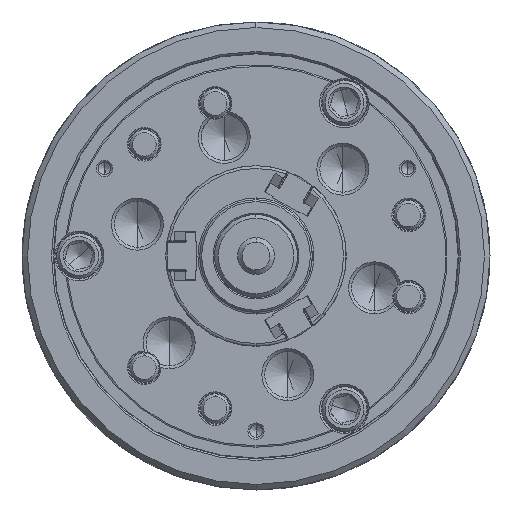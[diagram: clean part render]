
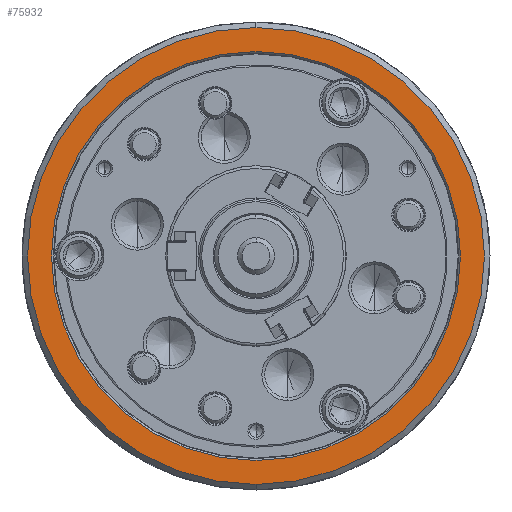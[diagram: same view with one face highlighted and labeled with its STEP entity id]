
A CAD part, left-side view. The second image highlights one B-rep face of the part: STEP entity #75932.
In plain terms, the highlighted planar face has unit normal (-1, 0, 0).
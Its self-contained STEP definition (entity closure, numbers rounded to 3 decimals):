
#64 = EDGE_LOOP ( 'NONE', ( #36844, #76359 ) ) ;
#1658 = DIRECTION ( 'NONE',  ( 0., 0., -1. ) ) ;
#8975 = AXIS2_PLACEMENT_3D ( 'NONE', #106332, #68957, #79192 ) ;
#10420 = CIRCLE ( 'NONE', #52894, 124. ) ;
#15321 = CARTESIAN_POINT ( 'NONE',  ( -89., 0., 111. ) ) ;
#19069 = CARTESIAN_POINT ( 'NONE',  ( -89., 0., 0. ) ) ;
#19248 = DIRECTION ( 'NONE',  ( 1., 0., 0. ) ) ;
#19308 = EDGE_CURVE ( 'NONE', #44173, #39544, #26319, .T. ) ;
#21521 = CARTESIAN_POINT ( 'NONE',  ( -89., 0., 0. ) ) ;
#26319 = CIRCLE ( 'NONE', #8975, 111. ) ;
#27140 = CARTESIAN_POINT ( 'NONE',  ( -89., 0., 0. ) ) ;
#28400 = EDGE_CURVE ( 'NONE', #103493, #116309, #10420, .T. ) ;
#36844 = ORIENTED_EDGE ( 'NONE', *, *, #95064, .F. ) ;
#37824 = DIRECTION ( 'NONE',  ( 0., 0., -1. ) ) ;
#38419 = DIRECTION ( 'NONE',  ( 1., 0., 0. ) ) ;
#39544 = VERTEX_POINT ( 'NONE', #85059 ) ;
#41585 = PLANE ( 'NONE',  #54094 ) ;
#44173 = VERTEX_POINT ( 'NONE', #15321 ) ;
#47493 = CIRCLE ( 'NONE', #62920, 124. ) ;
#51841 = AXIS2_PLACEMENT_3D ( 'NONE', #21521, #94049, #1658 ) ;
#52894 = AXIS2_PLACEMENT_3D ( 'NONE', #19069, #38419, #37824 ) ;
#53334 = ORIENTED_EDGE ( 'NONE', *, *, #19308, .T. ) ;
#54094 = AXIS2_PLACEMENT_3D ( 'NONE', #59093, #95959, #96543 ) ;
#59093 = CARTESIAN_POINT ( 'NONE',  ( -89., -124., 0. ) ) ;
#62472 = CARTESIAN_POINT ( 'NONE',  ( -89., 0., 124. ) ) ;
#62920 = AXIS2_PLACEMENT_3D ( 'NONE', #27140, #19248, #92993 ) ;
#68957 = DIRECTION ( 'NONE',  ( 1., 0., 0. ) ) ;
#69012 = EDGE_CURVE ( 'NONE', #39544, #44173, #103875, .T. ) ;
#75932 = ADVANCED_FACE ( 'NONE', ( #106756, #104966 ), #41585, .F. ) ;
#76359 = ORIENTED_EDGE ( 'NONE', *, *, #28400, .F. ) ;
#79192 = DIRECTION ( 'NONE',  ( 0., 0., -1. ) ) ;
#85059 = CARTESIAN_POINT ( 'NONE',  ( -89., 0., -111. ) ) ;
#92993 = DIRECTION ( 'NONE',  ( 0., 0., -1. ) ) ;
#94049 = DIRECTION ( 'NONE',  ( 1., 0., 0. ) ) ;
#95064 = EDGE_CURVE ( 'NONE', #116309, #103493, #47493, .T. ) ;
#95959 = DIRECTION ( 'NONE',  ( 1., 0., 0. ) ) ;
#96543 = DIRECTION ( 'NONE',  ( 0., 0., -1. ) ) ;
#103493 = VERTEX_POINT ( 'NONE', #62472 ) ;
#103875 = CIRCLE ( 'NONE', #51841, 111. ) ;
#104966 = FACE_BOUND ( 'NONE', #117555, .T. ) ;
#106332 = CARTESIAN_POINT ( 'NONE',  ( -89., 0., 0. ) ) ;
#106756 = FACE_OUTER_BOUND ( 'NONE', #64, .T. ) ;
#109482 = CARTESIAN_POINT ( 'NONE',  ( -89., 0., -124. ) ) ;
#110850 = ORIENTED_EDGE ( 'NONE', *, *, #69012, .T. ) ;
#116309 = VERTEX_POINT ( 'NONE', #109482 ) ;
#117555 = EDGE_LOOP ( 'NONE', ( #53334, #110850 ) ) ;
